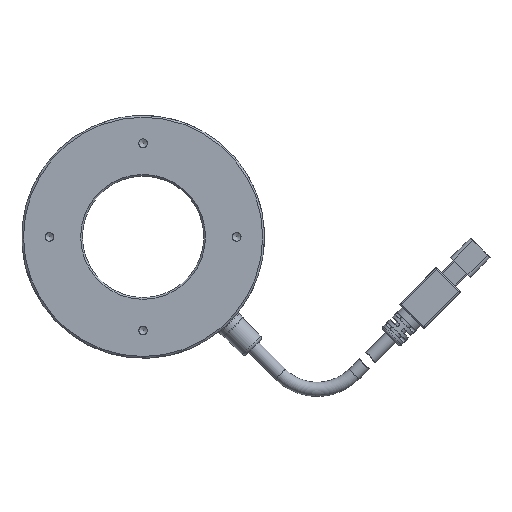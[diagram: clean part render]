
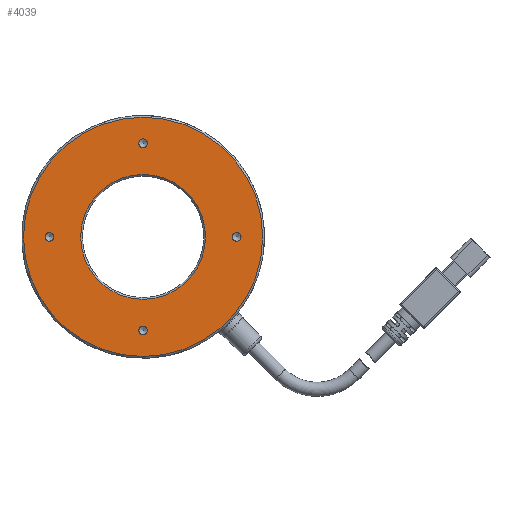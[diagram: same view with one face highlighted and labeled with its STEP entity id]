
A CAD part, front view. The second image highlights one B-rep face of the part: STEP entity #4039.
In plain terms, the highlighted planar face has unit normal (0, -1, 0).
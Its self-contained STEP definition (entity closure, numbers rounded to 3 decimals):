
#136 = DIRECTION ( 'NONE',  ( 0., -1., 0. ) ) ;
#219 = DIRECTION ( 'NONE',  ( 0., -1., 0. ) ) ;
#400 = CARTESIAN_POINT ( 'NONE',  ( -17.5, 38.273, 0. ) ) ;
#649 = DIRECTION ( 'NONE',  ( 0., 1., 0. ) ) ;
#665 = EDGE_CURVE ( 'NONE', #11395, #11395, #997, .T. ) ;
#773 = DIRECTION ( 'NONE',  ( 0., 0., 1. ) ) ;
#940 = EDGE_CURVE ( 'NONE', #8524, #8524, #5623, .T. ) ;
#997 = CIRCLE ( 'NONE', #2247, 1.25 ) ;
#1019 = DIRECTION ( 'NONE',  ( 0., 0., 1. ) ) ;
#1030 = EDGE_CURVE ( 'NONE', #6328, #6328, #7795, .T. ) ;
#1043 = ORIENTED_EDGE ( 'NONE', *, *, #1030, .F. ) ;
#1200 = CIRCLE ( 'NONE', #3826, 1.25 ) ;
#1377 = AXIS2_PLACEMENT_3D ( 'NONE', #2008, #219, #1019 ) ;
#1490 = EDGE_LOOP ( 'NONE', ( #5594 ) ) ;
#1732 = EDGE_LOOP ( 'NONE', ( #4532 ) ) ;
#2008 = CARTESIAN_POINT ( 'NONE',  ( 0., 38.273, 0. ) ) ;
#2218 = FACE_BOUND ( 'NONE', #4919, .T. ) ;
#2247 = AXIS2_PLACEMENT_3D ( 'NONE', #4753, #9248, #3655 ) ;
#2366 = DIRECTION ( 'NONE',  ( 0., 1., 0. ) ) ;
#2394 = ORIENTED_EDGE ( 'NONE', *, *, #11924, .T. ) ;
#2454 = AXIS2_PLACEMENT_3D ( 'NONE', #4369, #7134, #8906 ) ;
#2811 = FACE_BOUND ( 'NONE', #10591, .T. ) ;
#3166 = DIRECTION ( 'NONE',  ( 0., 0., -1. ) ) ;
#3301 = PLANE ( 'NONE',  #10673 ) ;
#3655 = DIRECTION ( 'NONE',  ( 0., 0., -1. ) ) ;
#3664 = FACE_OUTER_BOUND ( 'NONE', #5395, .T. ) ;
#3826 = AXIS2_PLACEMENT_3D ( 'NONE', #5041, #136, #3166 ) ;
#3827 = CARTESIAN_POINT ( 'NONE',  ( 0., 38.273, 25.75 ) ) ;
#3992 = AXIS2_PLACEMENT_3D ( 'NONE', #6206, #649, #773 ) ;
#4039 = ADVANCED_FACE ( 'NONE', ( #6132, #3664, #8013, #5256, #2811, #2218 ), #3301, .F. ) ;
#4369 = CARTESIAN_POINT ( 'NONE',  ( 27., 38.273, 0. ) ) ;
#4442 = DIRECTION ( 'NONE',  ( 0., 0., -1. ) ) ;
#4532 = ORIENTED_EDGE ( 'NONE', *, *, #940, .F. ) ;
#4753 = CARTESIAN_POINT ( 'NONE',  ( 0., 38.273, 27. ) ) ;
#4919 = EDGE_LOOP ( 'NONE', ( #10761 ) ) ;
#4952 = EDGE_CURVE ( 'NONE', #8219, #8219, #1200, .T. ) ;
#5028 = VERTEX_POINT ( 'NONE', #8634 ) ;
#5041 = CARTESIAN_POINT ( 'NONE',  ( -27., 38.273, 0. ) ) ;
#5180 = EDGE_CURVE ( 'NONE', #11830, #11830, #10845, .T. ) ;
#5256 = FACE_BOUND ( 'NONE', #8121, .T. ) ;
#5395 = EDGE_LOOP ( 'NONE', ( #2394 ) ) ;
#5594 = ORIENTED_EDGE ( 'NONE', *, *, #5180, .T. ) ;
#5623 = CIRCLE ( 'NONE', #2454, 1.25 ) ;
#5681 = CARTESIAN_POINT ( 'NONE',  ( 27., 38.273, -1.25 ) ) ;
#6035 = CARTESIAN_POINT ( 'NONE',  ( -27., 38.273, -1.25 ) ) ;
#6132 = FACE_BOUND ( 'NONE', #1490, .T. ) ;
#6206 = CARTESIAN_POINT ( 'NONE',  ( 0., 38.273, 0. ) ) ;
#6328 = VERTEX_POINT ( 'NONE', #7431 ) ;
#7134 = DIRECTION ( 'NONE',  ( 0., -1., 0. ) ) ;
#7431 = CARTESIAN_POINT ( 'NONE',  ( 0., 38.273, -28.25 ) ) ;
#7795 = CIRCLE ( 'NONE', #10329, 1.25 ) ;
#8013 = FACE_BOUND ( 'NONE', #1732, .T. ) ;
#8121 = EDGE_LOOP ( 'NONE', ( #1043 ) ) ;
#8219 = VERTEX_POINT ( 'NONE', #6035 ) ;
#8312 = DIRECTION ( 'NONE',  ( 0., -1., 0. ) ) ;
#8524 = VERTEX_POINT ( 'NONE', #5681 ) ;
#8571 = CARTESIAN_POINT ( 'NONE',  ( 0., 38.273, 18. ) ) ;
#8634 = CARTESIAN_POINT ( 'NONE',  ( 0., 38.273, 34.5 ) ) ;
#8901 = ORIENTED_EDGE ( 'NONE', *, *, #4952, .F. ) ;
#8906 = DIRECTION ( 'NONE',  ( 0., 0., -1. ) ) ;
#9248 = DIRECTION ( 'NONE',  ( 0., -1., 0. ) ) ;
#9791 = CIRCLE ( 'NONE', #1377, 34.5 ) ;
#9957 = CARTESIAN_POINT ( 'NONE',  ( 0., 38.273, -27. ) ) ;
#10329 = AXIS2_PLACEMENT_3D ( 'NONE', #9957, #8312, #4442 ) ;
#10591 = EDGE_LOOP ( 'NONE', ( #8901 ) ) ;
#10673 = AXIS2_PLACEMENT_3D ( 'NONE', #400, #2366, #11529 ) ;
#10761 = ORIENTED_EDGE ( 'NONE', *, *, #665, .F. ) ;
#10845 = CIRCLE ( 'NONE', #3992, 18. ) ;
#11395 = VERTEX_POINT ( 'NONE', #3827 ) ;
#11529 = DIRECTION ( 'NONE',  ( 0., 0., 1. ) ) ;
#11830 = VERTEX_POINT ( 'NONE', #8571 ) ;
#11924 = EDGE_CURVE ( 'NONE', #5028, #5028, #9791, .T. ) ;
